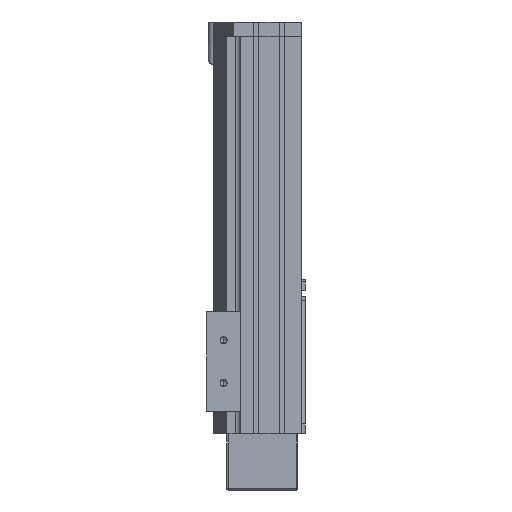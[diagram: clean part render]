
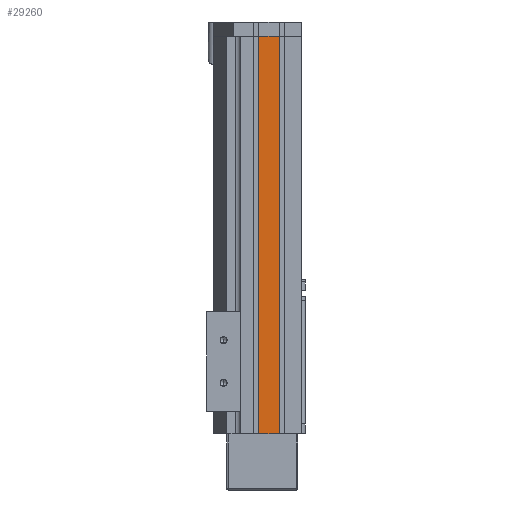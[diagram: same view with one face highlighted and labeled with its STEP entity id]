
A CAD part, left-side view. The second image highlights one B-rep face of the part: STEP entity #29260.
In plain terms, the highlighted planar face has unit normal (-1, 0, 0).
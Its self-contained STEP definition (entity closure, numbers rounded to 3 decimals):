
#2183 = DIRECTION ( 'NONE',  ( 0., 0., -1. ) ) ;
#2184 = VECTOR ( 'NONE', #2183, 1000. ) ;
#2185 = CARTESIAN_POINT ( 'NONE',  ( -50., 30., 1400. ) ) ;
#2186 = LINE ( 'NONE', #2185, #2184 ) ;
#2224 = CARTESIAN_POINT ( 'NONE',  ( -50., 30., 280. ) ) ;
#2228 = CARTESIAN_POINT ( 'NONE',  ( -50., 30., 0. ) ) ;
#2269 = VECTOR ( 'NONE', #2342, 1000. ) ;
#2279 = FACE_OUTER_BOUND ( 'NONE', #29272, .T. ) ;
#2285 = CARTESIAN_POINT ( 'NONE',  ( -50., 30., 280. ) ) ;
#2320 = DIRECTION ( 'NONE',  ( 0., -1., 0. ) ) ;
#2322 = VECTOR ( 'NONE', #2320, 1000. ) ;
#2330 = DIRECTION ( 'NONE',  ( 0., 0., -1. ) ) ;
#2331 = DIRECTION ( 'NONE',  ( 1., 0., 0. ) ) ;
#2332 = CARTESIAN_POINT ( 'NONE',  ( -50., 15.5, 1400. ) ) ;
#2342 = DIRECTION ( 'NONE',  ( 0., -1., 0. ) ) ;
#2343 = CARTESIAN_POINT ( 'NONE',  ( -50., 15.5, 0. ) ) ;
#2345 = LINE ( 'NONE', #2343, #2322 ) ;
#2347 = PLANE ( 'NONE',  #2360 ) ;
#2360 = AXIS2_PLACEMENT_3D ( 'NONE', #2332, #2331, #2330 ) ;
#2366 = LINE ( 'NONE', #2285, #2269 ) ;
#2396 = DIRECTION ( 'NONE',  ( 0., 0., -1. ) ) ;
#2397 = VECTOR ( 'NONE', #2396, 1000. ) ;
#2400 = CARTESIAN_POINT ( 'NONE',  ( -50., 15.5, 1400. ) ) ;
#2401 = LINE ( 'NONE', #2400, #2397 ) ;
#2413 = CARTESIAN_POINT ( 'NONE',  ( -50., 15.5, 0. ) ) ;
#2497 = CARTESIAN_POINT ( 'NONE',  ( -50., 15.5, 280. ) ) ;
#29217 = VERTEX_POINT ( 'NONE', #2224 ) ;
#29223 = VERTEX_POINT ( 'NONE', #2228 ) ;
#29226 = EDGE_CURVE ( 'NONE', #29217, #29223, #2186, .T. ) ;
#29252 = EDGE_CURVE ( 'NONE', #29217, #29284, #2366, .T. ) ;
#29253 = ORIENTED_EDGE ( 'NONE', *, *, #29275, .F. ) ;
#29254 = ORIENTED_EDGE ( 'NONE', *, *, #29252, .F. ) ;
#29259 = ORIENTED_EDGE ( 'NONE', *, *, #29261, .T. ) ;
#29260 = ADVANCED_FACE ( 'NONE', ( #2279 ), #2347, .F. ) ;
#29261 = EDGE_CURVE ( 'NONE', #29223, #29278, #2345, .T. ) ;
#29263 = ORIENTED_EDGE ( 'NONE', *, *, #29226, .T. ) ;
#29272 = EDGE_LOOP ( 'NONE', ( #29253, #29254, #29263, #29259 ) ) ;
#29275 = EDGE_CURVE ( 'NONE', #29284, #29278, #2401, .T. ) ;
#29278 = VERTEX_POINT ( 'NONE', #2413 ) ;
#29284 = VERTEX_POINT ( 'NONE', #2497 ) ;
